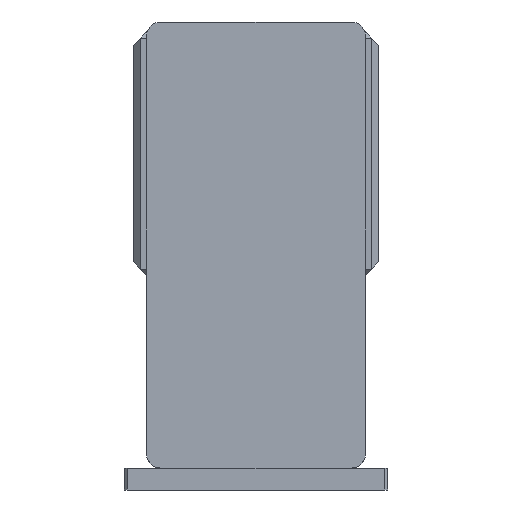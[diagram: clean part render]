
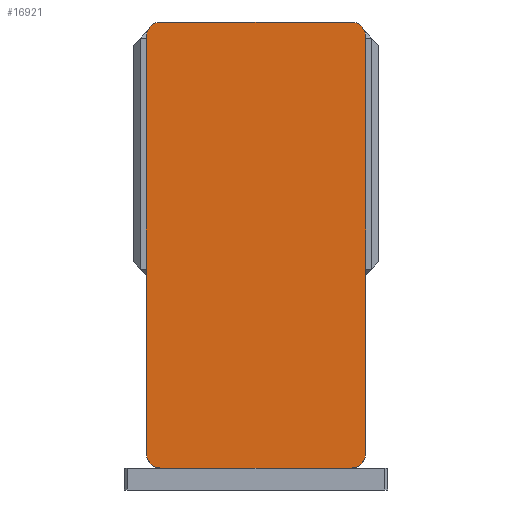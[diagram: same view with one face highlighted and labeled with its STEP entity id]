
A CAD part, left-side view. The second image highlights one B-rep face of the part: STEP entity #16921.
In plain terms, the highlighted planar face has unit normal (-1, 0, 0) as drawn and (0, 0, 1) by its records, which use the part's own axes.
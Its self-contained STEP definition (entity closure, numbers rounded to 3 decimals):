
#248 = CARTESIAN_POINT ( 'NONE',  ( 75., -142.5, 105. ) ) ;
#445 = LINE ( 'NONE', #6668, #18938 ) ;
#556 = VECTOR ( 'NONE', #13099, 1000. ) ;
#1030 = VERTEX_POINT ( 'NONE', #15224 ) ;
#1207 = DIRECTION ( 'NONE',  ( 1., 0., 0. ) ) ;
#1328 = DIRECTION ( 'NONE',  ( 0., 0., 1. ) ) ;
#2033 = CARTESIAN_POINT ( 'NONE',  ( 75., 152.5, 105. ) ) ;
#2436 = CARTESIAN_POINT ( 'NONE',  ( -75., -152.5, 105. ) ) ;
#2471 = AXIS2_PLACEMENT_3D ( 'NONE', #7828, #13171, #20420 ) ;
#3483 = CARTESIAN_POINT ( 'NONE',  ( 65., -142.5, 105. ) ) ;
#3616 = ORIENTED_EDGE ( 'NONE', *, *, #17923, .T. ) ;
#3855 = DIRECTION ( 'NONE',  ( 0., 1., 0. ) ) ;
#4246 = PLANE ( 'NONE',  #2471 ) ;
#4806 = CARTESIAN_POINT ( 'NONE',  ( -65., -152.5, 105. ) ) ;
#4857 = CIRCLE ( 'NONE', #15429, 10. ) ;
#5064 = CARTESIAN_POINT ( 'NONE',  ( 65., 152.5, 105. ) ) ;
#5272 = DIRECTION ( 'NONE',  ( 1., 0., 0. ) ) ;
#6048 = EDGE_CURVE ( 'NONE', #8215, #10957, #4857, .T. ) ;
#6282 = ORIENTED_EDGE ( 'NONE', *, *, #12033, .T. ) ;
#6300 = ORIENTED_EDGE ( 'NONE', *, *, #12323, .T. ) ;
#6414 = CARTESIAN_POINT ( 'NONE',  ( 65., 142.5, 105. ) ) ;
#6668 = CARTESIAN_POINT ( 'NONE',  ( -75., 152.5, 105. ) ) ;
#6888 = ORIENTED_EDGE ( 'NONE', *, *, #21296, .T. ) ;
#7568 = CIRCLE ( 'NONE', #22899, 10. ) ;
#7828 = CARTESIAN_POINT ( 'NONE',  ( 0., 0., 105. ) ) ;
#8132 = CARTESIAN_POINT ( 'NONE',  ( 65., -152.5, 105. ) ) ;
#8165 = DIRECTION ( 'NONE',  ( 1., 0., 0. ) ) ;
#8215 = VERTEX_POINT ( 'NONE', #16144 ) ;
#8646 = LINE ( 'NONE', #21476, #9436 ) ;
#9436 = VECTOR ( 'NONE', #10628, 1000. ) ;
#9578 = EDGE_CURVE ( 'NONE', #15627, #1030, #445, .T. ) ;
#10484 = VERTEX_POINT ( 'NONE', #248 ) ;
#10628 = DIRECTION ( 'NONE',  ( 0., -1., 0. ) ) ;
#10668 = LINE ( 'NONE', #2033, #19722 ) ;
#10957 = VERTEX_POINT ( 'NONE', #4806 ) ;
#11545 = AXIS2_PLACEMENT_3D ( 'NONE', #3483, #15965, #5272 ) ;
#11638 = CARTESIAN_POINT ( 'NONE',  ( 75., 142.5, 105. ) ) ;
#11872 = DIRECTION ( 'NONE',  ( 0., 0., 1. ) ) ;
#11971 = CARTESIAN_POINT ( 'NONE',  ( -65., -142.5, 105. ) ) ;
#12033 = EDGE_CURVE ( 'NONE', #10484, #21761, #10668, .T. ) ;
#12080 = CIRCLE ( 'NONE', #15045, 10. ) ;
#12323 = EDGE_CURVE ( 'NONE', #1030, #12808, #12080, .T. ) ;
#12808 = VERTEX_POINT ( 'NONE', #20772 ) ;
#13099 = DIRECTION ( 'NONE',  ( 1., 0., 0. ) ) ;
#13171 = DIRECTION ( 'NONE',  ( 0., 0., 1. ) ) ;
#13372 = ORIENTED_EDGE ( 'NONE', *, *, #6048, .T. ) ;
#13796 = DIRECTION ( 'NONE',  ( 1., 0., 0. ) ) ;
#14969 = ORIENTED_EDGE ( 'NONE', *, *, #17603, .T. ) ;
#15045 = AXIS2_PLACEMENT_3D ( 'NONE', #22685, #11872, #1207 ) ;
#15224 = CARTESIAN_POINT ( 'NONE',  ( -65., 152.5, 105. ) ) ;
#15429 = AXIS2_PLACEMENT_3D ( 'NONE', #11971, #1328, #13796 ) ;
#15627 = VERTEX_POINT ( 'NONE', #5064 ) ;
#15965 = DIRECTION ( 'NONE',  ( 0., 0., 1. ) ) ;
#16144 = CARTESIAN_POINT ( 'NONE',  ( -75., -142.5, 105. ) ) ;
#16690 = ORIENTED_EDGE ( 'NONE', *, *, #20927, .T. ) ;
#16921 = ADVANCED_FACE ( 'NONE', ( #18731 ), #4246, .T. ) ;
#17603 = EDGE_CURVE ( 'NONE', #12808, #8215, #8646, .T. ) ;
#17923 = EDGE_CURVE ( 'NONE', #10957, #18164, #19625, .T. ) ;
#18164 = VERTEX_POINT ( 'NONE', #8132 ) ;
#18599 = ORIENTED_EDGE ( 'NONE', *, *, #9578, .T. ) ;
#18731 = FACE_OUTER_BOUND ( 'NONE', #21032, .T. ) ;
#18938 = VECTOR ( 'NONE', #19224, 1000. ) ;
#18943 = DIRECTION ( 'NONE',  ( 0., 0., 1. ) ) ;
#19224 = DIRECTION ( 'NONE',  ( -1., 0., 0. ) ) ;
#19625 = LINE ( 'NONE', #2436, #556 ) ;
#19722 = VECTOR ( 'NONE', #3855, 1000. ) ;
#20420 = DIRECTION ( 'NONE',  ( 1., 0., 0. ) ) ;
#20772 = CARTESIAN_POINT ( 'NONE',  ( -75., 142.5, 105. ) ) ;
#20927 = EDGE_CURVE ( 'NONE', #21761, #15627, #7568, .T. ) ;
#21032 = EDGE_LOOP ( 'NONE', ( #3616, #6888, #6282, #16690, #18599, #6300, #14969, #13372 ) ) ;
#21296 = EDGE_CURVE ( 'NONE', #18164, #10484, #21655, .T. ) ;
#21476 = CARTESIAN_POINT ( 'NONE',  ( -75., 152.5, 105. ) ) ;
#21655 = CIRCLE ( 'NONE', #11545, 10. ) ;
#21761 = VERTEX_POINT ( 'NONE', #11638 ) ;
#22685 = CARTESIAN_POINT ( 'NONE',  ( -65., 142.5, 105. ) ) ;
#22899 = AXIS2_PLACEMENT_3D ( 'NONE', #6414, #18943, #8165 ) ;
